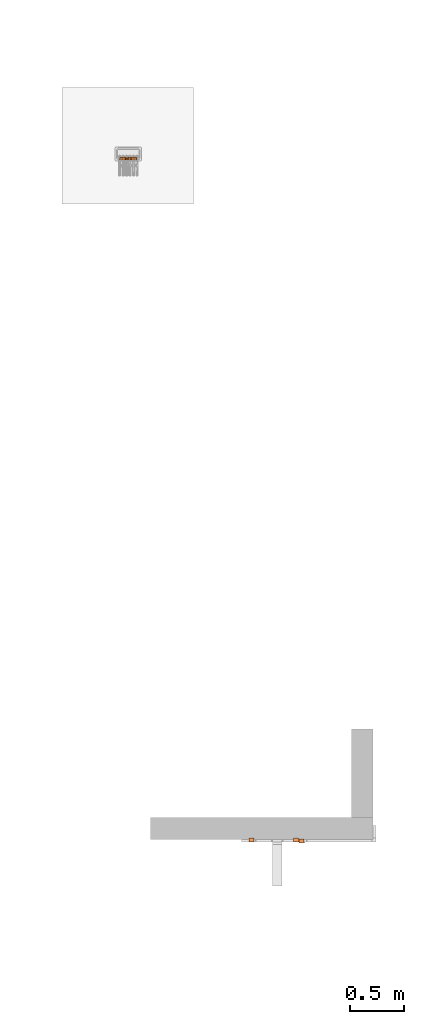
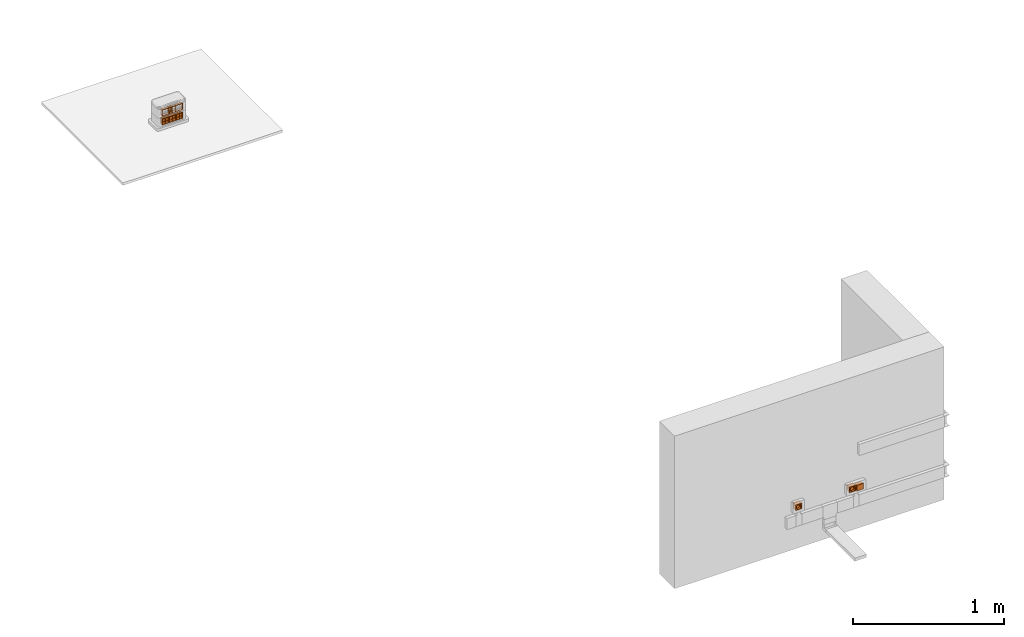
# One storey, part 72 of 87: 23 proxies, 1 opening.
"""IFC2X3 building model written with IfcOpenShell, lengths in millimetres."""

from ifc_helpers import new_model, entity, si_unit, converted_unit, derived_unit, direction, frame, frame_2d, origin, place, context, subcontext, project, spatial, polyline, rectangle, outline, extrude, faceted_brep, source, transform, mapped, material, type_object, type_shapes, element, save


model = new_model("IFC2X3")

# Units and contexts
model_context = context("Model", 3, precision=0.01, world=origin(), true_north=direction((6.12303176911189e-17, 1.0)))
body_context = subcontext(model_context, "Body", "Model", "MODEL_VIEW")
ifc_project = project(units=[si_unit("LENGTHUNIT", "METRE", prefix="MILLI"), si_unit("AREAUNIT", "SQUARE_METRE"), si_unit("VOLUMEUNIT", "CUBIC_METRE"), converted_unit("PLANEANGLEUNIT", "DEGREE", entity("IfcRatioMeasure", 0.0174532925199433), si_unit("PLANEANGLEUNIT", "RADIAN"), dimensions=[0, 0, 0, 0, 0, 0, 0]), si_unit("MASSUNIT", "GRAM", prefix="KILO"), derived_unit("MASSDENSITYUNIT", [(si_unit("MASSUNIT", "GRAM", prefix="KILO"), 1), (si_unit("LENGTHUNIT", "METRE"), -3)]), si_unit("TIMEUNIT", "SECOND"), si_unit("FREQUENCYUNIT", "HERTZ"), si_unit("THERMODYNAMICTEMPERATUREUNIT", "DEGREE_CELSIUS"), derived_unit("THERMALTRANSMITTANCEUNIT", [(si_unit("MASSUNIT", "GRAM", prefix="KILO"), 1), (si_unit("THERMODYNAMICTEMPERATUREUNIT", "KELVIN"), -1), (si_unit("TIMEUNIT", "SECOND"), -3)]), derived_unit("VOLUMETRICFLOWRATEUNIT", [(si_unit("LENGTHUNIT", "METRE"), 3), (si_unit("TIMEUNIT", "SECOND"), -1)]), si_unit("ELECTRICCURRENTUNIT", "AMPERE"), si_unit("ELECTRICVOLTAGEUNIT", "VOLT"), si_unit("POWERUNIT", "WATT"), si_unit("FORCEUNIT", "NEWTON", prefix="KILO"), si_unit("ILLUMINANCEUNIT", "LUX"), si_unit("LUMINOUSFLUXUNIT", "LUMEN"), si_unit("LUMINOUSINTENSITYUNIT", "CANDELA"), derived_unit("USERDEFINED", [(si_unit("MASSUNIT", "GRAM", prefix="KILO"), -1), (si_unit("LENGTHUNIT", "METRE"), -2), (si_unit("TIMEUNIT", "SECOND"), 3), (si_unit("LUMINOUSFLUXUNIT", "LUMEN"), 1)]), derived_unit("LINEARVELOCITYUNIT", [(si_unit("LENGTHUNIT", "METRE"), 1), (si_unit("TIMEUNIT", "SECOND"), -1)]), si_unit("PRESSUREUNIT", "PASCAL"), derived_unit("USERDEFINED", [(si_unit("LENGTHUNIT", "METRE"), -2), (si_unit("MASSUNIT", "GRAM", prefix="KILO"), 1), (si_unit("TIMEUNIT", "SECOND"), -2)])], contexts=[model_context])

# Site, building, storey
site_placement = place(None, origin())
site = spatial("IfcSite", under=ifc_project, at=site_placement, Name="Default", CompositionType="ELEMENT")
building_placement = place(site_placement, origin())
building = spatial("IfcBuilding", under=site, at=building_placement, Name="Наименование здания", CompositionType="ELEMENT")
storey_placement = place(building_placement, origin())
storey = spatial("IfcBuildingStorey", under=building, at=storey_placement, Name="Этаж 01", CompositionType="ELEMENT", Elevation=0.0)

# Proxies
building_element_proxy_type_1 = type_object("IfcBuildingElementProxyType", Name="Белый", PredefinedType="NOTDEFINED")
shared_shape_1 = source(origin(), body_context, "Body", "Brep", [
    faceted_brep([(-6.48971939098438, -10.5732864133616, 0.0), (-9.52308900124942, -10.5732864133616, 3.03336961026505), (-12.5564586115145, -10.5732864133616, 0.0), (-9.52308900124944, -10.5732864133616, -3.03336961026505), (9.52308900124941, -10.5732864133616, -3.03336961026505), (12.5564586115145, -10.5732864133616, 0.0), (9.52308900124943, -10.5732864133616, 3.03336961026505), (6.48971939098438, -10.5732864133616, 0.0), (16.0533963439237, -24.3000000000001, 2.03345949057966), (16.0533963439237, -24.3000000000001, 11.928472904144), (9.52308900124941, -24.3000000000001, 3.03336961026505), (12.5564586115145, -24.3000000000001, 0.0), (16.0533963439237, -24.3000000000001, -2.03345949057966), (20.0, -24.3000000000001, 0.0), (19.8963575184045, -24.3000000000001, 2.03345949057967), (12.8662739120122, -24.3000000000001, 15.3120539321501), (8.98416779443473, -24.3000000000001, 17.868540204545), (4.6167735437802, -24.3000000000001, 19.4598407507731), (0.0, -24.3000000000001, 20.0), (6.48971939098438, -24.3000000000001, 0.0), (-6.48971939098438, -24.3000000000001, 0.0), (-9.52308900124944, -24.3000000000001, 3.03336961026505), (-4.61677354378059, -24.3000000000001, 19.4598407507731), (-8.98416779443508, -24.3000000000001, 17.8685402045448), (-12.8662739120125, -24.3000000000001, 15.3120539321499), (-16.0533963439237, -24.3000000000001, 11.9284729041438), (-16.0533963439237, -24.3000000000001, 2.03345949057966), (-12.5564586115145, -24.3000000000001, 0.0), (-16.0533963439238, -24.3000000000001, -2.03345949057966), (-20.0, -24.3000000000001, 0.0), (-19.8963575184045, -24.3000000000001, 2.03345949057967), (-19.8963575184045, -24.3000000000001, -2.03345949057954), (-9.52308900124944, -24.3000000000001, -3.03336961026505), (-16.0533963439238, -24.3000000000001, -11.9284729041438), (-12.8662739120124, -24.3000000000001, -15.3120539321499), (-8.98416779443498, -24.3000000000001, -17.8685402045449), (-4.61677354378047, -24.3000000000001, -19.4598407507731), (0.0, -24.3000000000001, -20.0), (9.52308900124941, -24.3000000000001, -3.03336961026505), (4.61677354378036, -24.3000000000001, -19.4598407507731), (8.98416779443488, -24.3000000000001, -17.8685402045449), (12.8662739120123, -24.3000000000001, -15.31205393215), (16.0533963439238, -24.3000000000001, -11.9284729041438), (19.8963575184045, -24.3000000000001, -2.03345949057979), (-23.0, 0.0, -20.5000000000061), (-23.0, 0.0, 20.5000000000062), (23.0, 0.0, 20.5000000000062), (23.0, 0.0, -20.5000000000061), (-23.0, -24.3000000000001, 20.5000000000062), (23.0, -24.3000000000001, 20.5000000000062), (-23.0, -24.3000000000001, -20.5000000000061), (23.0, -24.3000000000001, -20.5000000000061), (25.0, -39.3, 22.5000000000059), (16.0533963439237, -39.3, 11.9284729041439), (19.8963575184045, -39.3, 2.03345949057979), (12.8662739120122, -39.3, 15.3120539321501), (20.0, -39.3, 0.0), (8.98416779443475, -39.3, 17.868540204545), (4.61677354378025, -39.3, 19.4598407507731), (0.0, -39.3, 20.0), (-25.0, -39.3, 22.5000000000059), (25.0, -39.3, -22.5000000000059), (-4.6167735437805, -39.3, 19.4598407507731), (-8.98416779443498, -39.3, 17.8685402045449), (-12.8662739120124, -39.3, 15.31205393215), (-16.0533963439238, -39.3, 11.9284729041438), (-19.8963575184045, -39.3, 2.03345949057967), (-20.0, -39.3, 0.0), (-25.0, -39.3, -22.5000000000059), (-19.8963575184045, -39.3, -2.03345949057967), (-16.0533963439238, -39.3, -11.9284729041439), (-12.8662739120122, -39.3, -15.3120539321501), (-8.98416779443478, -39.3, -17.868540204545), (-4.61677354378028, -39.3, -19.4598407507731), (0.0, -39.3, -20.0), (19.8963575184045, -39.3, -2.03345949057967), (16.0533963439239, -39.3, -11.9284729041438), (12.8662739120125, -39.3, -15.3120539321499), (8.98416779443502, -39.3, -17.8685402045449), (4.61677354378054, -39.3, -19.4598407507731), (-16.0533963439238, -39.3, -2.03345949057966), (-16.0533963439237, -39.3, 2.03345949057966), (16.0533963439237, -39.3, 2.03345949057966), (16.0533963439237, -39.3, -2.03345949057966), (-25.0, -24.3000000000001, 22.5000000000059), (-25.0, -24.3000000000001, -22.5000000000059), (25.0, -24.3000000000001, 22.5000000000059), (25.0, -24.3000000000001, -22.5000000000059)], [[[0, 1, 2, 3]], [[4, 5, 6, 7]], [[8, 9, 10]], [[8, 10, 11]], [[8, 11, 12]], [[13, 8, 12]], [[13, 14, 8]], [[9, 15, 10]], [[16, 10, 15]], [[16, 17, 10]], [[17, 18, 10]], [[10, 18, 19]], [[19, 18, 20]], [[20, 18, 21]], [[18, 22, 21]], [[22, 23, 21]], [[23, 24, 21]], [[25, 21, 24]], [[26, 21, 25]], [[27, 21, 26]], [[28, 27, 26]], [[26, 29, 28]], [[29, 26, 30]], [[28, 29, 31]], [[28, 32, 27]], [[33, 32, 28]], [[33, 34, 32]], [[35, 32, 34]], [[32, 35, 36]], [[36, 37, 32]], [[38, 19, 37]], [[39, 38, 37]], [[20, 37, 19]], [[32, 37, 20]], [[40, 38, 39]], [[38, 40, 41]], [[38, 41, 42]], [[12, 38, 42]], [[38, 12, 11]], [[13, 12, 43]], [[44, 45, 46, 47]], [[48, 49, 46, 45]], [[50, 48, 45, 44]], [[51, 50, 44, 47]], [[49, 51, 47, 46]], [[38, 4, 7, 19]], [[11, 5, 4, 38]], [[10, 6, 5, 11]], [[19, 7, 6, 10]], [[32, 3, 2, 27]], [[20, 0, 3, 32]], [[21, 1, 0, 20]], [[27, 2, 1, 21]], [[52, 53, 54]], [[53, 52, 55]], [[52, 54, 56]], [[57, 55, 52]], [[58, 57, 52]], [[59, 58, 52]], [[52, 60, 59]], [[56, 61, 52]], [[62, 59, 60]], [[63, 62, 60]], [[63, 60, 64]], [[60, 65, 64]], [[65, 60, 66]], [[67, 66, 60]], [[60, 68, 67]], [[69, 67, 68]], [[68, 70, 69]], [[70, 68, 71]], [[72, 71, 68]], [[72, 68, 73]], [[74, 73, 68]], [[74, 68, 61]], [[56, 75, 61]], [[76, 61, 75]], [[61, 76, 77]], [[77, 78, 61]], [[78, 79, 61]], [[61, 79, 74]], [[80, 69, 70]], [[66, 81, 65]], [[82, 54, 53]], [[76, 75, 83]], [[84, 48, 50]], [[48, 84, 49]], [[50, 85, 84]], [[86, 49, 84]], [[49, 86, 51]], [[87, 51, 86]], [[51, 87, 85]], [[85, 50, 51]], [[60, 52, 86, 84]], [[68, 60, 84, 85]], [[61, 68, 85, 87]], [[52, 61, 87, 86]], [[64, 65, 25, 24]], [[24, 23, 63, 64]], [[63, 23, 22, 62]], [[18, 59, 62, 22]], [[57, 58, 17, 16]], [[16, 15, 55, 57]], [[55, 15, 9, 53]], [[58, 59, 18, 17]], [[82, 53, 9, 8]], [[76, 83, 12, 42]], [[54, 82, 8, 14]], [[81, 66, 30, 26]], [[13, 56, 54, 14]], [[43, 75, 56, 13]], [[83, 75, 43, 12]], [[69, 80, 28, 31]], [[77, 76, 42, 41]], [[41, 40, 78, 77]], [[78, 40, 39, 79]], [[37, 74, 79, 39]], [[72, 73, 36, 35]], [[71, 72, 35, 34]], [[70, 71, 34, 33]], [[73, 74, 37, 36]], [[80, 70, 33, 28]], [[65, 81, 26, 25]], [[29, 67, 69, 31]], [[30, 66, 67, 29]]]),
])
type_shapes(building_element_proxy_type_1, [shared_shape_1])
for number, where in (
    (1, (-15645.9658098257, -3958.98925968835, 350.0)),
    (2, (-15233.5158098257, -3958.98925968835, 350.0)),
):
    element("IfcBuildingElementProxy", number, at=place(storey_placement, frame(where)), inside=storey, type_object=building_element_proxy_type_1, Name="Силовые электрические розетки, штекерные, с заземлением и со шторками:Белый", ObjectType="Белый", context=body_context, shape_type="MappedRepresentation", body=[
        mapped(shared_shape_1, transform((0.0, 0.0, 0.0), scale=1.0)),
    ])
building_element_proxy_type_2 = type_object("IfcBuildingElementProxyType", Name="2 модуля", PredefinedType="NOTDEFINED")
shared_shape_2 = source(origin(), body_context, "Body", "SweptSolid", [
    extrude(outline(polyline([(-11.5294757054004, -20.4906213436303), (15.8705242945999, -20.4906213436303), (15.8705242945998, 20.5093786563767), (-11.5294757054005, 20.5093786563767), (-11.5294757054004, 5.47186403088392), (7.18842711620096, 5.47186403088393), (7.188427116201, -5.49062134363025), (-11.5294757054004, -5.49062134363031), (-11.5294757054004, -20.4906213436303)])), frame((-23.0, -11.5294757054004, 0.00937865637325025), z_axis=(1.0, 0.0, 0.0), x_axis=(0.0, -1.0, 0.0)), (0.0, 0.0, 1.0), 46.0000000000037),
    extrude(rectangle(XDim=7.00000000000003, YDim=49.9999999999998, at=frame_2d((-1.99840144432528e-15, 0.0), x_axis=(1.0, 0.0))), frame((0.0, -30.9000000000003, -22.5000000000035), z_axis=(0.0, 0.0, 1.0), x_axis=(0.0, 1.0, 0.0)), (0.0, 0.0, 1.0), 45.0000000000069),
])
type_shapes(building_element_proxy_type_2, [shared_shape_2])
proxy_1_placement = place(storey_placement, frame((-15181.7658098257, -3970.88925968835, 350.0)))
element("IfcBuildingElementProxy", 3, at=proxy_1_placement, inside=storey, type_object=building_element_proxy_type_2, Name="Переключатели:2 модуля", ObjectType="2 модуля", context=body_context, shape_type="MappedRepresentation", body=[
    mapped(shared_shape_2, transform((0.0, 0.0, 0.0), scale=1.0)),
])
ifc_material_1 = material(Name="DKC_Пластик_Белый")
building_element_proxy_type_3 = type_object("IfcBuildingElementProxyType", Name="45x45", PredefinedType="NOTDEFINED", material=ifc_material_1)
shared_shape_3 = source(origin(), body_context, "Body", "Brep", [
    faceted_brep([(-22.5, -11.9782074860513, -4.10000215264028), (-22.5, 0.0, -4.10000215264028), (-26.5, 0.0, -4.10000215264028), (-26.5, -11.9782074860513, -4.10000215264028), (26.5, -11.9782074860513, -4.10000215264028), (26.5, 0.0, -4.10000215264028), (22.5, 0.0, -4.10000215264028), (22.5, -11.9782074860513, -4.10000215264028), (-26.5, -13.039366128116, -3.96029796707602), (-22.5, -13.039366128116, -3.96029796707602), (22.5, -13.039366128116, -3.96029796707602), (26.5, -13.039366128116, -3.96029796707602), (-26.5, -14.0282085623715, -3.55070601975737), (-22.5, -14.0282085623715, -3.55070601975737), (22.5, -14.0282085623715, -3.55070601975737), (26.5, -14.0282085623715, -3.55070601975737), (-22.5, -15.5289135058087, -2.05000107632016), (-22.5, -14.8773468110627, -2.8991393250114), (-26.5, -14.8773468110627, -2.89913932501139), (-26.5, -15.5289135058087, -2.05000107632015), (22.5, -14.8773468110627, -2.8991393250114), (22.5, -15.5289135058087, -2.05000107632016), (26.5, -15.5289135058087, -2.05000107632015), (26.5, -14.8773468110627, -2.89913932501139), (-22.5, -15.9385054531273, -1.06115864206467), (-26.5, -15.9385054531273, -1.06115864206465), (22.5, -15.9385054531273, -1.06115864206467), (26.5, -15.9385054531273, -1.06115864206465), (-26.5, -16.0782096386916, 0.0), (-22.5, -16.0782096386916, 0.0), (22.5, -16.0782096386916, 0.0), (26.5, -16.0782096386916, 0.0), (-22.5, -15.9385054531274, 1.06115864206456), (-26.5, -15.9385054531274, 1.06115864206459), (-26.5, -15.5289135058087, 2.0500010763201), (-22.5, -15.5289135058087, 2.05000107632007), (22.5, -15.9385054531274, 1.06115864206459), (22.5, -15.5289135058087, 2.05000107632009), (26.5, -15.5289135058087, 2.05000107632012), (26.5, -15.9385054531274, 1.06115864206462), (-26.5, -14.8773468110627, 2.89913932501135), (-22.5, -14.8773468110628, 2.89913932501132), (22.5, -14.8773468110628, 2.89913932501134), (26.5, -14.8773468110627, 2.89913932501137), (-22.5, -13.0393661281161, 3.96029796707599), (-22.5, -14.0282085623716, 3.55070601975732), (-26.5, -14.0282085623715, 3.55070601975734), (-26.5, -13.039366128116, 3.96029796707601), (22.5, -14.0282085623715, 3.55070601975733), (22.5, -13.039366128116, 3.960297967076), (26.5, -13.039366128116, 3.96029796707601), (26.5, -14.0282085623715, 3.55070601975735), (-22.5, -11.9782074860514, 4.10000215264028), (-26.5, -11.9782074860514, 4.10000215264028), (22.5, -11.9782074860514, 4.10000215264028), (26.5, -11.9782074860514, 4.10000215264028), (-22.5, 0.0, 4.10000215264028), (-26.5, 0.0, 4.10000215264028), (26.5, 0.0, 4.10000215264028), (22.5, 0.0, 4.10000215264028), (22.5, 0.0, -22.5), (22.5, -20.0, -22.5), (22.5, -20.0, 22.4999999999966), (22.5, 0.0, 22.4999999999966), (-22.5, 0.0, 22.4999999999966), (-22.5, -20.0, 22.4999999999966), (-22.5, -20.0, -22.5), (-22.5, 0.0, -22.5), (26.5, 0.0, 25.0), (26.5, -20.0, 25.0), (26.5, -20.0, -25.0), (26.5, 0.0, -25.0), (-26.5, -20.0, 25.0), (-26.5, 0.0, 25.0), (-26.5, 0.0, -25.0), (-26.5, -20.0, -25.0)], [[[0, 1, 2, 3]], [[4, 5, 6, 7]], [[0, 3, 8, 9]], [[7, 10, 11, 4]], [[9, 8, 12, 13]], [[10, 14, 15, 11]], [[16, 17, 18, 19]], [[20, 21, 22, 23]], [[12, 18, 17, 13]], [[14, 20, 23, 15]], [[24, 16, 19, 25]], [[21, 26, 27, 22]], [[28, 29, 24, 25]], [[26, 30, 31, 27]], [[32, 33, 34, 35]], [[36, 37, 38, 39]], [[35, 34, 40, 41]], [[37, 42, 43, 38]], [[44, 45, 46, 47]], [[48, 49, 50, 51]], [[40, 46, 45, 41]], [[42, 48, 51, 43]], [[52, 44, 47, 53]], [[49, 54, 55, 50]], [[32, 29, 28, 33]], [[36, 39, 31, 30]], [[56, 52, 53, 57]], [[58, 55, 54, 59]], [[48, 42, 37, 36, 30, 26, 21, 20, 14, 10, 7, 6, 60, 61, 62, 63, 59, 54, 49]], [[13, 17, 16, 24, 29, 32, 35, 41, 45, 44, 52, 56, 64, 65, 66, 67, 1, 0, 9]], [[64, 63, 62, 65]], [[66, 61, 60, 67]], [[58, 68, 69, 70, 71, 5, 4, 11, 15, 23, 22, 27, 31, 39, 38, 43, 51, 50, 55]], [[72, 73, 57, 53, 47, 46, 40, 34, 33, 28, 25, 19, 18, 12, 8, 3, 2, 74, 75]], [[69, 68, 73, 72]], [[69, 62, 61]], [[62, 69, 65]], [[61, 70, 69]], [[72, 65, 69]], [[65, 72, 66]], [[75, 66, 72]], [[66, 75, 70]], [[70, 61, 66]], [[71, 70, 75, 74]], [[71, 74, 2, 1, 67, 60, 6, 5]], [[58, 59, 63, 64, 56, 57, 73, 68]]]),
])
type_shapes(building_element_proxy_type_3, [shared_shape_3])
for number, where in (
    (4, (-16839.2397600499, 2332.69041279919, 56.875)),
    (5, (-16786.2397600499, 2332.69041279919, 56.875)),
    (6, (-16733.2397600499, 2332.69041279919, 56.875)),
):
    element("IfcBuildingElementProxy", number, at=place(storey_placement, frame(where)), inside=storey, type_object=building_element_proxy_type_3, material=ifc_material_1, Name="КНС_КаркасНа2МодуляДляМонтажаЭлектроустановочныхИзделий_ILF_DKC:45x45", ObjectType="45x45", context=body_context, shape_type="MappedRepresentation", body=[
        mapped(shared_shape_3, transform((0.0, 0.0, 0.0), scale=1.0)),
    ])
building_element_proxy_type_4 = type_object("IfcBuildingElementProxyType", Name="Категория 5e", PredefinedType="NOTDEFINED")
shared_shape_4 = source(origin(), body_context, "Body", "Brep", [
    faceted_brep([(7.5, -25.0, 8.25000000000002), (-7.5, -25.0, 8.25000000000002), (-7.5, -25.0, -8.25), (7.5, -25.0, -8.25), (-2.620002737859, -25.0, -2.65625000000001), (-4.52170142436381, -25.0, -2.65625), (-4.5217014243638, -25.0, 2.36695910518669), (4.5217014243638, -25.0, 2.36695910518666), (4.52170142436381, -25.0, -2.65625000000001), (2.620002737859, -25.0, -2.65625), (2.620002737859, -25.0, -4.28326939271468), (1.25323285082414, -25.0, -4.28326939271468), (1.25323285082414, -25.0, -5.38721564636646), (-1.25323285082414, -25.0, -5.38721564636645), (-1.25323285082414, -25.0, -4.28326939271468), (-2.620002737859, -25.0, -4.28326939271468), (7.5, -16.2913439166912, 8.25000000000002), (7.5, -16.2913439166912, -8.25), (-7.5, -16.2913439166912, -8.25), (-7.5, -16.2913439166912, 8.25000000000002), (-4.52170142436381, -20.0, -2.65625), (-2.620002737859, -20.0, -2.65625), (-2.620002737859, -20.0, -4.28326939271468), (-1.25323285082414, -20.0, -4.28326939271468), (-1.25323285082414, -20.0, -5.38721564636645), (1.25323285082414, -20.0, -5.38721564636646), (1.25323285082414, -20.0, -4.28326939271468), (2.620002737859, -20.0, -4.28326939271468), (2.620002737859, -20.0, -2.65625), (4.52170142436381, -20.0, -2.65625000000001), (4.5217014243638, -20.0, 2.36695910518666), (-4.5217014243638, -20.0, 2.36695910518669)], [[[0, 1, 2, 3], [4, 5, 6, 7, 8, 9, 10, 11, 12, 13, 14, 15]], [[16, 17, 18, 19]], [[1, 0, 16, 19]], [[2, 1, 19, 18]], [[3, 2, 18, 17]], [[0, 3, 17, 16]], [[20, 21, 22, 23, 24, 25, 26, 27, 28, 29, 30, 31]], [[21, 20, 5, 4]], [[22, 21, 4, 15]], [[23, 22, 15, 14]], [[24, 23, 14, 13]], [[25, 24, 13, 12]], [[26, 25, 12, 11]], [[27, 26, 11, 10]], [[28, 27, 10, 9]], [[29, 28, 9, 8]], [[30, 29, 8, 7]], [[31, 30, 7, 6]], [[20, 31, 6, 5]]]),
    faceted_brep([(10.5000000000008, -25.0, 22.5000000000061), (-10.5000000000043, -25.0, 22.5000000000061), (-10.5000000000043, -25.0, -22.5000000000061), (10.5000000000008, -25.0, -22.5000000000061), (7.5, -25.0, 8.25000000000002), (7.5, -25.0, -8.25), (-7.5, -25.0, -8.25), (-7.5, -25.0, 8.25000000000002), (10.5000000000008, 0.0, 20.5000000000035), (10.5000000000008, 0.0, 17.5000000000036), (-10.5000000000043, 0.0, 17.5000000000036), (-10.5000000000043, 0.0, 20.5000000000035), (10.5000000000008, -16.2913439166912, 22.5000000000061), (-10.5000000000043, -16.2913439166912, 22.5000000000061), (-10.5000000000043, -10.0, 20.5000000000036), (-10.5000000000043, -20.0, 17.5000000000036), (-10.5000000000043, -20.0, -17.5000000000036), (-10.5000000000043, 0.0, -17.5000000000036), (-10.5000000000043, 0.0, -20.5000000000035), (-10.5000000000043, -10.0, -20.5000000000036), (-10.5000000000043, -16.2913439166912, -22.5000000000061), (10.5000000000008, -16.2913439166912, -22.5000000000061), (10.5000000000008, -10.0, -20.5000000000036), (10.5000000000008, 0.0, -20.5000000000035), (10.5000000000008, 0.0, -17.5000000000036), (10.5000000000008, -20.0, -17.5000000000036), (10.5000000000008, -20.0, 17.5000000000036), (10.5000000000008, -10.0, 20.5000000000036), (7.5, -20.0, 8.25000000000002), (7.5, -20.0, -8.25), (-7.5, -20.0, -8.25), (-7.5, -20.0, 8.25000000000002)], [[[0, 1, 2, 3], [4, 5, 6, 7]], [[8, 9, 10, 11]], [[1, 0, 12, 13]], [[2, 1, 13, 14, 11, 10, 15, 16, 17, 18, 19, 20]], [[3, 2, 20, 21]], [[0, 3, 21, 22, 23, 24, 25, 26, 9, 8, 27, 12]], [[5, 4, 28, 29]], [[6, 5, 29, 30]], [[7, 6, 30, 31]], [[4, 7, 31, 28]], [[16, 25, 24, 17]], [[26, 15, 10, 9]], [[29, 28, 31, 30], [25, 16, 15, 26]], [[14, 27, 8, 11]], [[27, 14, 13, 12]], [[22, 19, 18, 23]], [[19, 22, 21, 20]], [[24, 23, 18, 17]]], outer=[[True, False], [True], [True], [True], [True], [True], [True], [True], [True], [True], [True], [True], [False, True], [True], [True], [True], [True], [True]]),
])
type_shapes(building_element_proxy_type_4, [shared_shape_4])
for number, where in (
    (7, (-16797.2397600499, 2337.6904127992, 56.8749999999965)),
    (8, (-16775.2397600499, 2337.6904127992, 56.8749999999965)),
    (9, (-16744.2397600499, 2337.6904127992, 56.8749999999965)),
    (10, (-16722.2397600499, 2337.6904127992, 56.8749999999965)),
    (11, (-16850.2397600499, 2337.6904127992, 56.8749999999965)),
    (12, (-16828.2397600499, 2337.6904127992, 56.8749999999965)),
):
    element("IfcBuildingElementProxy", number, at=place(storey_placement, frame(where)), inside=storey, type_object=building_element_proxy_type_4, Name="Компьютерные розетки:Категория 5e", ObjectType="Категория 5e", context=body_context, shape_type="MappedRepresentation", body=[
        mapped(shared_shape_4, transform((0.0, 0.0, 0.0), scale=1.0)),
    ])
building_element_proxy_type_5 = type_object("IfcBuildingElementProxyType", Name="1 модуль 2", PredefinedType="NOTDEFINED")
shared_shape_5 = source(origin(), body_context, "Body", "SweptSolid", [
    extrude(outline(polyline([(-22.5000000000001, -12.4999999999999), (22.5000000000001, -12.4999999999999), (22.5000000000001, 12.4999999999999), (-22.5000000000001, 12.4999999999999), (-22.5000000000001, -12.4999999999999)]), holes=[polyline([(-21.5000000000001, -11.4999999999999), (-21.5000000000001, 11.4999999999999), (21.5000000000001, 11.4999999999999), (21.5000000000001, -11.4999999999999), (-21.5000000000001, -11.4999999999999)])]), frame((0.0, 0.0, 0.0), z_axis=(0.0, 1.0, 0.0), x_axis=(0.0, 0.0, -1.0)), (0.0, 0.0, 1.0), 11.9999999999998),
])
type_shapes(building_element_proxy_type_5, [shared_shape_5])
for number, where in (
    (13, (-16797.2397600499, 2325.6904127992, 56.8749999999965)),
    (14, (-16775.2397600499, 2325.6904127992, 56.8749999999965)),
    (15, (-16744.2397600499, 2325.6904127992, 56.8749999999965)),
    (16, (-16722.2397600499, 2325.6904127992, 56.8749999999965)),
    (17, (-16850.2397600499, 2325.6904127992, 56.8749999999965)),
    (18, (-16828.2397600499, 2325.6904127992, 56.8749999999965)),
    (19, (-16797.2397600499, 2325.6904127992, 127.875000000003)),
):
    element("IfcBuildingElementProxy", number, at=place(storey_placement, frame(where)), inside=storey, type_object=building_element_proxy_type_5, Name="Суппорт для монтажа ЭУИ серии Viva на DIN-рейку или монтажную плату1:1 модуль 2", ObjectType="1 модуль 2", context=body_context, shape_type="MappedRepresentation", body=[
        mapped(shared_shape_5, transform((0.0, 0.0, 0.0), scale=1.0)),
    ])
ifc_material_2 = material(Name="DKC_Пластик_Серо-черный")
building_element_proxy_type_6 = type_object("IfcBuildingElementProxyType", Name="Viva", PredefinedType="NOTDEFINED", material=ifc_material_2)
shared_shape_6 = source(origin(), body_context, "Body", "Brep", [
    faceted_brep([(-25.0, -11.9782074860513, -4.10000215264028), (-25.0, 0.0, -4.10000215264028), (-26.5, 0.0, -4.10000215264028), (-26.5, -11.9782074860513, -4.10000215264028), (26.5, -11.9782074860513, -4.10000215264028), (26.5, 0.0, -4.10000215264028), (25.0, 0.0, -4.10000215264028), (25.0, -11.9782074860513, -4.10000215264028), (-26.5, -13.039366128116, -3.96029796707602), (-25.0, -13.039366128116, -3.96029796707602), (25.0, -13.039366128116, -3.96029796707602), (26.5, -13.039366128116, -3.96029796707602), (-26.5, -14.0282085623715, -3.55070601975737), (-25.0, -14.0282085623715, -3.55070601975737), (25.0, -14.0282085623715, -3.55070601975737), (26.5, -14.0282085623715, -3.55070601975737), (-25.0, -15.5289135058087, -2.05000107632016), (-25.0, -14.8773468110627, -2.8991393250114), (-26.5, -14.8773468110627, -2.89913932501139), (-26.5, -15.5289135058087, -2.05000107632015), (25.0, -14.8773468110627, -2.8991393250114), (25.0, -15.5289135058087, -2.05000107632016), (26.5, -15.5289135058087, -2.05000107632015), (26.5, -14.8773468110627, -2.89913932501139), (-25.0, -15.9385054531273, -1.06115864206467), (-26.5, -15.9385054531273, -1.06115864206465), (25.0, -15.9385054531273, -1.06115864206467), (26.5, -15.9385054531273, -1.06115864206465), (-26.5, -16.0782096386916, 0.0), (-25.0, -16.0782096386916, 0.0), (25.0, -16.0782096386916, 0.0), (26.5, -16.0782096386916, 0.0), (-25.0, -15.9385054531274, 1.06115864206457), (-26.5, -15.9385054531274, 1.06115864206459), (-26.5, -15.5289135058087, 2.0500010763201), (-25.0, -15.5289135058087, 2.05000107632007), (25.0, -15.9385054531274, 1.06115864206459), (25.0, -15.5289135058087, 2.05000107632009), (26.5, -15.5289135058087, 2.05000107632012), (26.5, -15.9385054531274, 1.06115864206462), (-26.5, -14.8773468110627, 2.89913932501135), (-25.0, -14.8773468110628, 2.89913932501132), (25.0, -14.8773468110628, 2.89913932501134), (26.5, -14.8773468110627, 2.89913932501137), (-25.0, -13.0393661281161, 3.96029796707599), (-25.0, -14.0282085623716, 3.55070601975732), (-26.5, -14.0282085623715, 3.55070601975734), (-26.5, -13.039366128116, 3.96029796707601), (25.0, -14.0282085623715, 3.55070601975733), (25.0, -13.039366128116, 3.960297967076), (26.5, -13.039366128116, 3.96029796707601), (26.5, -14.0282085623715, 3.55070601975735), (-25.0, -11.9782074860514, 4.10000215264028), (-26.5, -11.9782074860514, 4.10000215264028), (25.0, -11.9782074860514, 4.10000215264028), (26.5, -11.9782074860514, 4.10000215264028), (-25.0, 0.0, 4.10000215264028), (-26.5, 0.0, 4.10000215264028), (26.5, 0.0, 4.10000215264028), (25.0, 0.0, 4.10000215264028), (25.0, 0.0, -22.5), (25.0, -20.0, -22.5), (25.0, -20.0, 22.4999999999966), (25.0, 0.0, 22.4999999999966), (-25.0, 0.0, 22.4999999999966), (-25.0, -20.0, 22.4999999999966), (-25.0, -20.0, -22.5), (-25.0, 0.0, -22.5), (26.5, 0.0, 25.0), (26.5, -20.0, 25.0), (26.5, -20.0, -25.0), (26.5, 0.0, -25.0), (-26.5, -20.0, 25.0), (-26.5, 0.0, 25.0), (-26.5, 0.0, -25.0), (-26.5, -20.0, -25.0)], [[[0, 1, 2, 3]], [[4, 5, 6, 7]], [[0, 3, 8, 9]], [[7, 10, 11, 4]], [[9, 8, 12, 13]], [[10, 14, 15, 11]], [[16, 17, 18, 19]], [[20, 21, 22, 23]], [[12, 18, 17, 13]], [[14, 20, 23, 15]], [[24, 16, 19, 25]], [[21, 26, 27, 22]], [[28, 29, 24, 25]], [[26, 30, 31, 27]], [[32, 33, 34, 35]], [[36, 37, 38, 39]], [[35, 34, 40, 41]], [[37, 42, 43, 38]], [[44, 45, 46, 47]], [[48, 49, 50, 51]], [[40, 46, 45, 41]], [[42, 48, 51, 43]], [[52, 44, 47, 53]], [[49, 54, 55, 50]], [[32, 29, 28, 33]], [[39, 31, 30, 36]], [[56, 52, 53, 57]], [[58, 55, 54, 59]], [[48, 42, 37, 36, 30, 26, 21, 20, 14, 10, 7, 6, 60, 61, 62, 63, 59, 54, 49]], [[13, 17, 16, 24, 29, 32, 35, 41, 45, 44, 52, 56, 64, 65, 66, 67, 1, 0, 9]], [[64, 63, 62, 65]], [[66, 61, 60, 67]], [[58, 68, 69, 70, 71, 5, 4, 11, 15, 23, 22, 27, 31, 39, 38, 43, 51, 50, 55]], [[72, 73, 57, 53, 47, 46, 40, 34, 33, 28, 25, 19, 18, 12, 8, 3, 2, 74, 75]], [[69, 68, 73, 72]], [[69, 62, 61]], [[62, 69, 65]], [[61, 70, 69]], [[72, 65, 69]], [[65, 72, 66]], [[75, 66, 72]], [[66, 75, 70]], [[70, 61, 66]], [[71, 70, 75, 74]], [[71, 74, 2, 1, 67, 60, 6, 5]], [[58, 59, 63, 64, 56, 57, 73, 68]]]),
])
type_shapes(building_element_proxy_type_6, [shared_shape_6])
for number, where in (
    (20, (-16839.2397600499, 2332.69041279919, 127.875000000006)),
    (21, (-16786.2397600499, 2332.69041279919, 127.875000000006)),
    (22, (-16733.2397600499, 2332.69041279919, 127.875000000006)),
):
    element("IfcBuildingElementProxy", number, at=place(storey_placement, frame(where)), inside=storey, type_object=building_element_proxy_type_6, material=ifc_material_2, Name="КНС_КаркасНа2МодуляДляМонтажаЭлектроустановочныхИзделий_ILF_DKC:Viva", ObjectType="Viva", context=body_context, shape_type="MappedRepresentation", body=[
        mapped(shared_shape_6, transform((0.0, 0.0, 0.0), scale=1.0)),
    ])

# Proxy, opening
building_element_proxy_type_7 = type_object("IfcBuildingElementProxyType", Name="Категория 5e", PredefinedType="NOTDEFINED")
shared_shape_7 = source(origin(), body_context, "Body", "SweptSolid", [
    extrude(outline(polyline([(-8.25000000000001, -7.5), (8.25000000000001, -7.5), (8.25000000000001, 7.5), (-8.25000000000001, 7.5), (-8.25000000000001, -7.5)]), holes=[polyline([(2.65625000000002, 2.620002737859), (4.28326939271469, 2.620002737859), (4.28326939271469, 1.25323285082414), (5.38721564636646, 1.25323285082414), (5.38721564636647, -1.25323285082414), (4.28326939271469, -1.25323285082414), (4.2832693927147, -2.620002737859), (2.65625000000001, -2.620002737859), (2.65625000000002, -4.52170142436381), (-2.36695910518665, -4.5217014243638), (-2.36695910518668, 4.5217014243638), (2.65625000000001, 4.52170142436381), (2.65625000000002, 2.620002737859)])]), frame((0.0, -25.0, 0.0), z_axis=(0.0, 1.0, 0.0), x_axis=(0.0, 0.0, -1.0)), (0.0, 0.0, 1.0), 4.99999999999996),
    extrude(outline(polyline([(-13.1181093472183, -22.5000000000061), (-4.40945326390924, -22.5000000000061), (1.88189065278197, -20.5000000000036), (11.881890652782, -20.5000000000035), (11.881890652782, -17.5000000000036), (-8.11810934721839, -17.5000000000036), (-8.11810934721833, 17.5000000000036), (11.881890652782, 17.5000000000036), (11.881890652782, 20.5000000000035), (1.88189065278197, 20.5000000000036), (-4.40945326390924, 22.5000000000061), (-13.1181093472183, 22.5000000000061), (-13.1181093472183, -22.5000000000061)])), frame((-10.5000000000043, -11.881890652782, 0.0), z_axis=(1.0, 0.0, 0.0), x_axis=(0.0, 1.0, 0.0)), (0.0, 0.0, 1.0), 21.0000000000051),
])
type_shapes(building_element_proxy_type_7, [shared_shape_7])
proxy_2_placement = place(storey_placement, frame((-16797.2397600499, 2337.6904127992, 127.875000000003)))
proxy_2 = element("IfcBuildingElementProxy", 23, at=proxy_2_placement, inside=storey, type_object=building_element_proxy_type_7, Name="Компьютерные розетки:Категория 5e", ObjectType="Категория 5e", context=body_context, shape_type="MappedRepresentation", body=[
    mapped(shared_shape_7, transform((0.0, 0.0, 0.0), scale=1.0)),
])
opening_placement = place(storey_placement, frame((-16797.2397600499, 2337.6904127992, 127.875000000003)))
element("IfcOpeningElement", 24, at=opening_placement, cuts=proxy_2, Name="Компьютерные розетки:Категория 5e:1", ObjectType="Opening", context=body_context, shape_type="SweptSolid", body=[
    extrude(rectangle(XDim=16.5, YDim=15.0, at=frame_2d((0.0, 8.88178419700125e-16), x_axis=(1.0, 0.0))), frame((0.0, -25.0, 0.0), z_axis=(0.0, 1.0, 0.0), x_axis=(0.0, 0.0, -1.0)), (0.0, 0.0, 1.0), 4.99999999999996),
])

save(model, "model.ifc")
